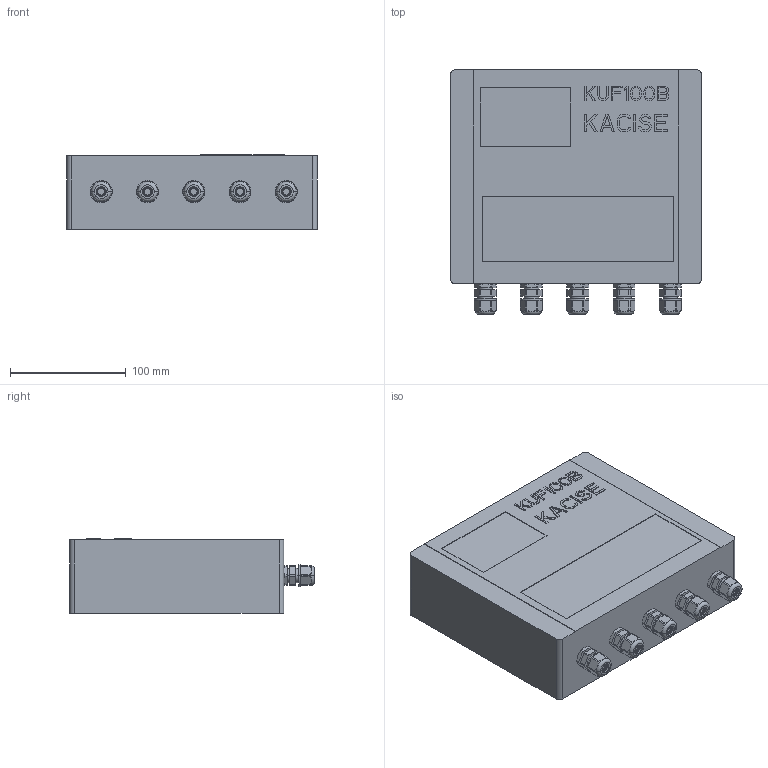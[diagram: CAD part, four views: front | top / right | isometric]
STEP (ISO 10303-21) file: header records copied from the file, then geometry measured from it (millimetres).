
FILE_DESCRIPTION((''),'2;1');
FILE_NAME('KUF100B_ASM','2026-01-23T11:57:44',('28740194'),(''),'CREO PARAMETRIC BY PTC INC, 2024063','CREO PARAMETRIC BY PTC INC, 2024063','');
FILE_SCHEMA(('CONFIG_CONTROL_DESIGN'));
Length unit declared in the file: millimetre
Products named in the file (9): KUF100B; EV214_27005336_DUMMY_MIR; EV214_27005336_02_MIR; EV214_27005336_03_MIR; EV214_27005336_04_MIR; EV214_27005336_06_MIR; EV214_27005336_07_MIR; ASM0003__ASM; KUF100B_ASM
Assembly tree (12 placements, depth 3):
  KUF100B_ASM
    KUF100B
    ASM0003__ASM  x5
      EV214_27005336_DUMMY_MIR
      EV214_27005336_02_MIR
      EV214_27005336_03_MIR
      EV214_27005336_04_MIR
      EV214_27005336_06_MIR
      EV214_27005336_07_MIR
Bounding box: 217 x 211.33 x 64.5 mm (x, y, z)
Volume: 2575206.4 mm3; surface area: 163911.2 mm2
Topology: 26 solids, 46 shells, 1542 faces, 4265 edges, 2850 vertices
Faces by surface type: plane 1128, cylinder 334, cone 50, torus 30
Entity records: 19669 total; most frequent: CARTESIAN_POINT 3574, ORIENTED_EDGE 3346, DIRECTION 3239, EDGE_CURVE 1681, VECTOR 1365, LINE 1365, VERTEX_POINT 1122, AXIS2_PLACEMENT_3D 937
